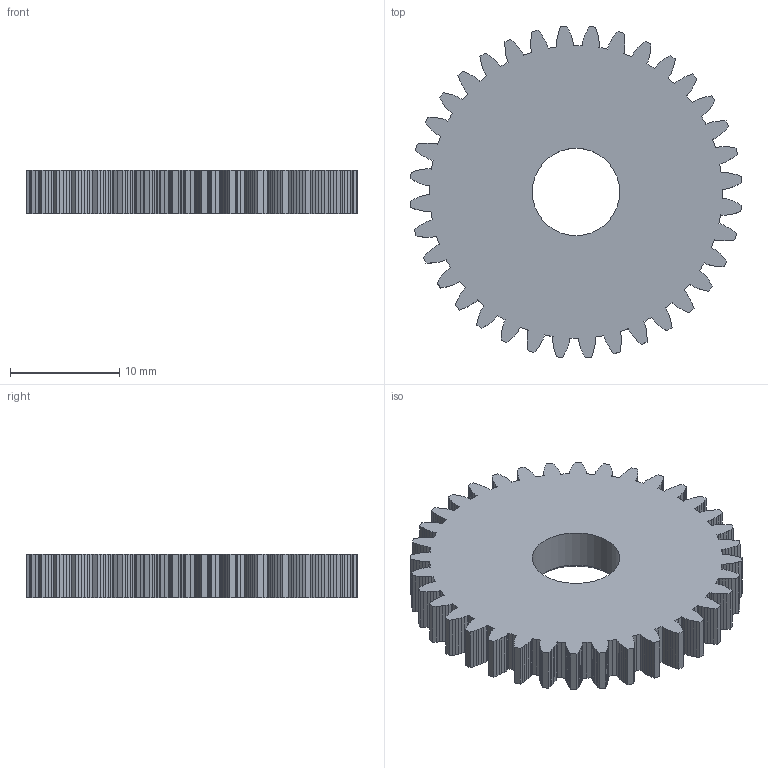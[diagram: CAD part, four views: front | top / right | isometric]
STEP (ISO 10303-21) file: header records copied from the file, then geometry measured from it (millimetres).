
FILE_DESCRIPTION(('Open CASCADE Model'),'2;1');
FILE_NAME('Open CASCADE Shape Model','2026-11-23T18:10:16',('Author'),( 'Open CASCADE'),'Open CASCADE STEP processor 8.0','build123d', 'Unknown');
FILE_SCHEMA(('AUTOMOTIVE_DESIGN { 1 0 10303 214 1 1 1 1 }'));
Length unit declared in the file: millimetre
Products named in the file (1): SOLID
Bounding box: 30.35 x 30.35 x 4 mm (x, y, z)
Volume: 2364.5 mm3; surface area: 2022.9 mm2
Topology: 1 solids, 1 shells, 616 faces, 1841 edges, 1227 vertices
Faces by surface type: plane 614, cone 1, cylinder 1
Full cylindrical faces by diameter (mm): 8 x1
Entity records: 44227 total; most frequent: CARTESIAN_POINT 7367, DIRECTION 6760, LINE 5518, VECTOR 5518, ORIENTED_EDGE 3682, PCURVE 3682, DEFINITIONAL_REPRESENTATION 3682, EDGE_CURVE 1841
